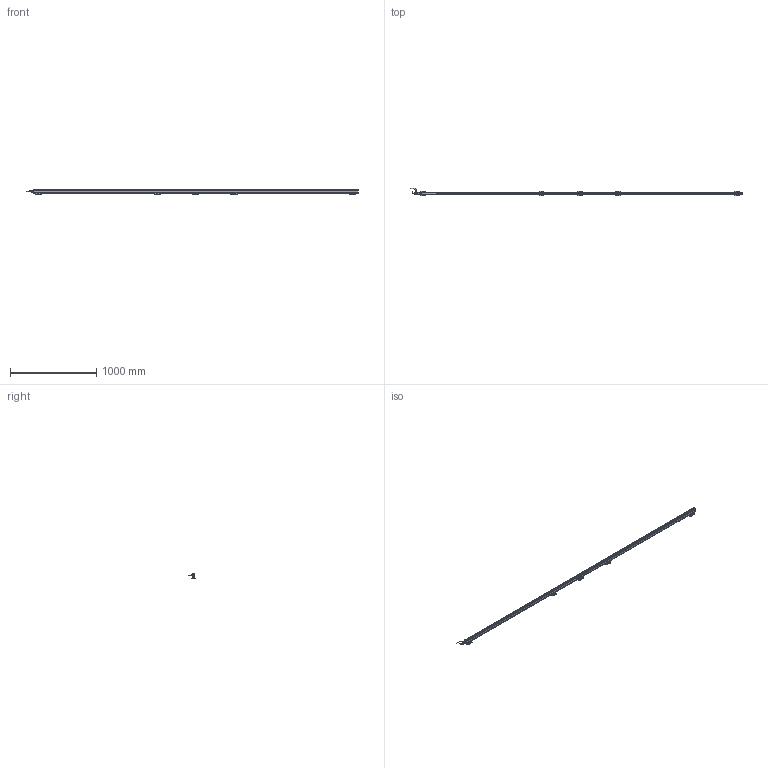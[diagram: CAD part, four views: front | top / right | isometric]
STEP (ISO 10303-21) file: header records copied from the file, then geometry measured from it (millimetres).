
FILE_DESCRIPTION(('Bauteilbeschreibung','HiCAD-Model','HiCAD-STEP-TRANSLATION','Bauteilbeschreibung'),'2;1');
FILE_NAME('PERFORMAXIQEASY_3690-3780_3D.STP','2014-03-05T13:25:28+00:00',('Konstrukteur'),('Konstrukteur Firma GmbH'),' HiCAD 2011, Step 1600.0 ','HiCAD 2011','confidential');
FILE_SCHEMA(('AUTOMOTIVE_DESIGN { 1 2 10303 214 0 1 1 1 }'));
Products named in the file (51): PERFORMAXIQEASY_3690_3780_3D; A_PERFORMAX IQ EASY 3690_3780; A_PERFORMAX IQ EASY SPEED; A_CAP DE; A_CAP CE_5; LED_2C_3MM; LED02C03MM; A519020315_CONNECTOR APPLIANCE; A_INSERT; A_CONTACTS; A_HOUSING; A_PROFILE; A_POTTING; PIN; PIN0; A532000100_BRACKET BARS_ MOUNT; A_SIDE PIECE; A0SIDE0PIECE; A_BRACKET SMALL; A_SLIDE PIECE; A5320001000BRACKET0BARS00MOUNT; A0SIDE0PIECE0; A0SIDE0PIECE1; A0BRACKET0SMALL; A0SLIDE0PIECE; A5320001000BRACKET0BARS00MOUNT0; A0SIDE0PIECE2; A0SIDE0PIECE3; A0BRACKET0SMALL0; A0SLIDE0PIECE0; A0SIDE0PIECE4; A0SIDE0PIECE5; A0BRACKET0SMALL1; A0SLIDE0PIECE1; A0SIDE0PIECE6; A0SIDE0PIECE7; A0BRACKET0SMALL2; A0SLIDE0PIECE2; A_CONNECTOR STRAIGHT; EXTRUDED SOLID_0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
Assembly tree (50 placements, depth 5):
  PERFORMAXIQEASY_3690_3780_3D
    A_PERFORMAX IQ EASY 3690_3780
      A_PERFORMAX IQ EASY SPEED
        A_CAP DE
        A_CAP CE_5
        LED_2C_3MM
        LED02C03MM
        A519020315_CONNECTOR APPLIANCE
          A_INSERT
          A_CONTACTS
          A_HOUSING
        A_PROFILE
        A_POTTING
        PIN
        PIN0
      A532000100_BRACKET BARS_ MOUNT
        A_SIDE PIECE
        A0SIDE0PIECE
        A_BRACKET SMALL
        A_SLIDE PIECE
      A5320001000BRACKET0BARS00MOUNT
        A0SIDE0PIECE0
        A0SIDE0PIECE1
        A0BRACKET0SMALL
        A0SLIDE0PIECE
      A5320001000BRACKET0BARS00MOUNT0
        A0SIDE0PIECE2
        A0SIDE0PIECE3
        A0BRACKET0SMALL0
        A0SLIDE0PIECE0
      A5320001000BRACKET0BARS00MOUNT0
        A0SIDE0PIECE4
        A0SIDE0PIECE5
        A0BRACKET0SMALL1
        A0SLIDE0PIECE1
      A5320001000BRACKET0BARS00MOUNT0
        A0SIDE0PIECE6
        A0SIDE0PIECE7
        A0BRACKET0SMALL2
        A0SLIDE0PIECE2
      A_CONNECTOR STRAIGHT
        EXTRUDED SOLID_0
        DRAAD GEBOGEN
        REVOLVED SOLID_1
        REVOLVED SOLID_3
      A_CONNECTOR ANGLED
        REVOLVED0SOLID01
        EXTRUDED0SOLID00
        C_EDGE SWEEP_0
        REVOLVED SOLID_2
        REVOLVED0SOLID03
Bounding box: 3857.89 x 84.26 x 63.13 mm (x, y, z)
Volume: 3875835.3 mm3; surface area: 929274.9 mm2
Topology: 45 solids, 45 shells, 4215 faces, 10820 edges, 6422 vertices
Faces by surface type: cylinder 1797, plane 1597, sphere 277, torus 252, bspline 208, cone 84
Full cylindrical faces by diameter (mm): 0.8 x10, 1 x5, 2.387 x10, 3 x23, 3.1 x1, 4.2 x2, 5 x4, 5.5 x25, 8 x2, 8.2 x1, 8.4 x2, 8.945 x1, 9 x2, 10.2 x1, 10.5 x3, 11 x1, 12 x3, 12.8 x1, 13.8 x4, 14.5 x3
Entity records: 195163 total; most frequent: CARTESIAN_POINT 45850, DIRECTION 20961, ORIENTED_EDGE 20534, EDGE_CURVE 10267, COLOUR_RGB 9750, PRESENTATION_STYLE_ASSIGNMENT 9750, OVER_RIDING_STYLED_ITEM 9710, CURVE_STYLE 9705
